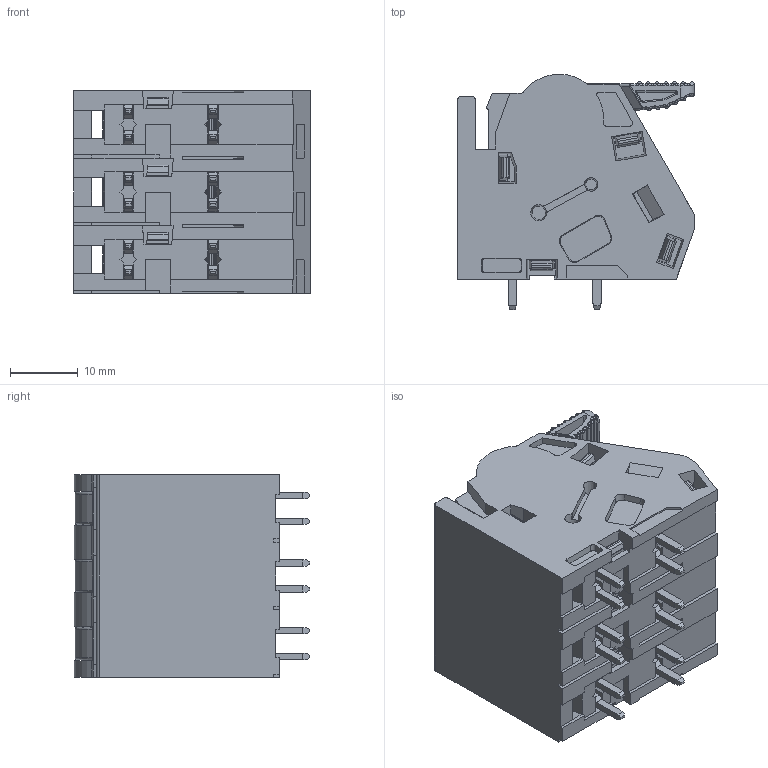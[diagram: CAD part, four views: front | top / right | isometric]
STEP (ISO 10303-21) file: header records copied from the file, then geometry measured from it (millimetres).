
FILE_DESCRIPTION((''),'2;1');
FILE_NAME('NZ0200XAXXXXG','2020-09-21T',('renkang.li'),(''),'CREO PARAMETRIC BY PTC INC, 2016260','CREO PARAMETRIC BY PTC INC, 2016260','');
FILE_SCHEMA(('CONFIG_CONTROL_DESIGN'));
Products named in the file (1): NZ0200XAXXXXG
Bounding box: 35 x 34.79 x 30 mm (x, y, z)
Volume: 16859.7 mm3; surface area: 25143.1 mm2
Topology: 1 solids, 117 shells, 4608 faces, 12133 edges, 7589 vertices
Faces by surface type: plane 2123, cylinder 1407, torus 472, cone 363, sphere 126, bspline 102, extrusion 15
Entity records: 146331 total; most frequent: CARTESIAN_POINT 31577, DIRECTION 24466, ORIENTED_EDGE 24026, EDGE_CURVE 12013, AXIS2_PLACEMENT_3D 8740, VERTEX_POINT 7589, VECTOR 6986, LINE 6971
